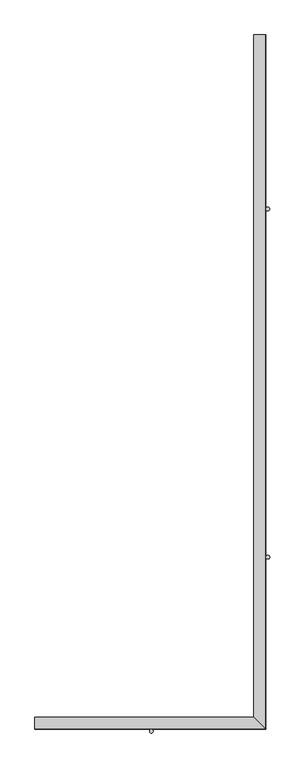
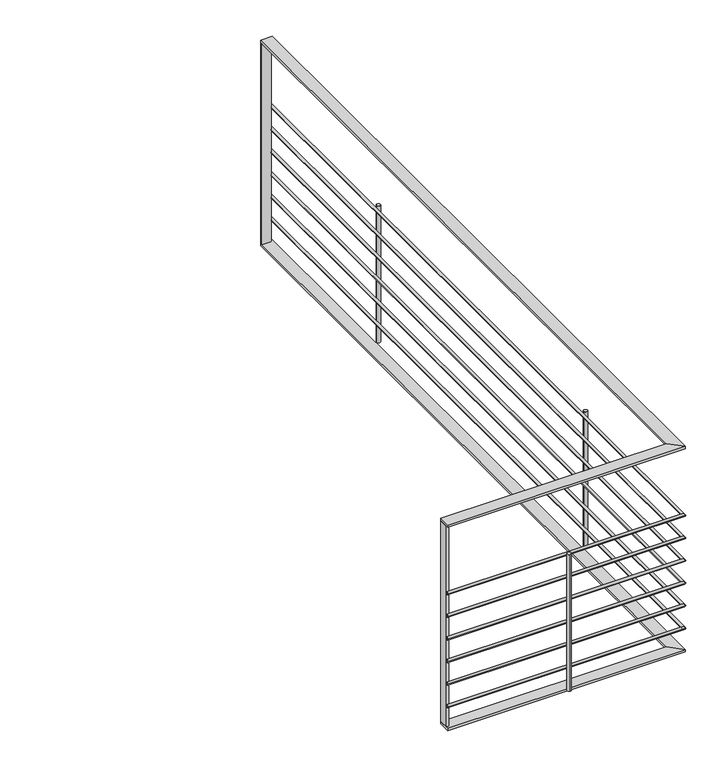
"""IFC4 building model written with IfcOpenShell, lengths in millimetres: railing geometry, Pletina y tubos."""

import ifcopenshell
import ifcopenshell.guid

model = None  # the IFC model being written
_history = None  # IfcOwnerHistory: only IFC2X3 demands one
_inside = {}  # id of a spatial element -> (the spatial element, [elements in it])
_under = {}  # id of a project, library or spatial element -> (it, [spatial elements below it])
_declared = {}  # id of a project -> (the project, [libraries it declares])
_typed = {}  # id of a type object -> (the type object, [elements of that type])
_made_of = {}  # id of a material, layer set ... -> (it, [elements and type objects made of it])


def new_model(schema):
    """Start an empty IFC model of exactly this schema.

    Asked for "IFC4X3", IfcOpenShell would pick the latest addendum, in which some entities
    have other attributes; the version numbers below select the first issue.
    IFC2X3 requires an IfcOwnerHistory on every rooted entity: one is made here for all.
    """
    global model, _history
    if schema == "IFC4X3":
        model = ifcopenshell.file(schema_version=(4, 3, 0, 0))
    else:
        model = ifcopenshell.file(schema=schema)
    _inside.clear()
    _under.clear()
    _declared.clear()
    _typed.clear()
    _made_of.clear()
    _history = None
    if model.schema == "IFC2X3":
        org = make("IfcOrganization", Name="unknown")
        user = make(
            "IfcPersonAndOrganization",
            ThePerson=make("IfcPerson", FamilyName="unknown"),
            TheOrganization=org,
        )
        app = make(
            "IfcApplication",
            ApplicationDeveloper=org,
            Version="unknown",
            ApplicationFullName="unknown",
            ApplicationIdentifier="unknown",
        )
        _history = make(
            "IfcOwnerHistory",
            OwningUser=user,
            OwningApplication=app,
            ChangeAction="ADDED",
            CreationDate=0,
        )
    return model


def make(cls, **values):
    """One entity of the class cls with the attributes given. An attribute that is None is left unset."""
    return model.create_entity(
        cls, **{name: value for name, value in values.items() if value is not None}
    )


def rooted(cls, **values):
    """An entity with a GlobalId (a new one), such as an element, a storey or a relation."""
    return make(cls, GlobalId=ifcopenshell.guid.new(), OwnerHistory=_history, **values)


def si_unit(unit_type, name, prefix=None):
    """IfcSIUnit, for example si_unit("LENGTHUNIT", "METRE", prefix="MILLI")."""
    return make("IfcSIUnit", UnitType=unit_type, Prefix=prefix, Name=name)


def assignment(units):
    """IfcUnitAssignment: the units of a project."""
    return None if units is None else make("IfcUnitAssignment", Units=units)


def point(xyz):
    """IfcCartesianPoint."""
    return None if xyz is None else make("IfcCartesianPoint", Coordinates=xyz)


def direction(xyz):
    """IfcDirection."""
    return None if xyz is None else make("IfcDirection", DirectionRatios=xyz)


def frame(location, z_axis=None, x_axis=None):
    """IfcAxis2Placement3D, a coordinate frame: its origin and axes. An axis left out is left unset."""
    return make(
        "IfcAxis2Placement3D",
        Location=point(location),
        Axis=direction(z_axis),
        RefDirection=direction(x_axis),
    )


def frame_2d(location, x_axis=None):
    """IfcAxis2Placement2D, a coordinate frame in the plane: its origin and x axis."""
    return make(
        "IfcAxis2Placement2D", Location=point(location), RefDirection=direction(x_axis)
    )


def origin():
    """The frame at (0, 0, 0) with its axes left unset."""
    return frame((0.0, 0.0, 0.0))


def place(relative_to, where):
    """IfcLocalPlacement: puts the frame where relative to a parent placement (None: the world)."""
    return make(
        "IfcLocalPlacement", PlacementRelTo=relative_to, RelativePlacement=where
    )


def context(
    kind, dimensions, precision=None, world=None, true_north=None, identifier=None
):
    """IfcGeometricRepresentationContext, for example the 3D "Model" context."""
    return make(
        "IfcGeometricRepresentationContext",
        ContextIdentifier=identifier,
        ContextType=kind,
        CoordinateSpaceDimension=dimensions,
        Precision=precision,
        WorldCoordinateSystem=world,
        TrueNorth=true_north,
    )


def project(units=None, contexts=None):
    """IfcProject with its units and contexts."""
    return rooted(
        "IfcProject",
        Name="project",
        RepresentationContexts=contexts,
        UnitsInContext=assignment(units),
    )


def spatial(cls, under=None, at=None, **own):
    """A site, building, storey or space (cls), placed at a placement, below another one or the project."""
    s = rooted(cls, ObjectPlacement=at, **own)
    if under is not None:
        _under.setdefault(under.id(), (under, []))[1].append(s)
    return s


def polyline(points):
    """IfcPolyline through the points."""
    return make("IfcPolyline", Points=[point(p) for p in points])


def circle_curve(where, radius):
    """IfcCircle in the frame where."""
    return make("IfcCircle", Position=where, Radius=radius)


def ellipse_curve(where, semi_axis1, semi_axis2):
    """IfcEllipse in the frame where."""
    return make(
        "IfcEllipse", Position=where, SemiAxis1=semi_axis1, SemiAxis2=semi_axis2
    )


def trimmed(basis, trim1, trim2, sense, master):
    """IfcTrimmedCurve: the piece of a basis curve between two trims."""
    return make(
        "IfcTrimmedCurve",
        BasisCurve=basis,
        Trim1=trim1,
        Trim2=trim2,
        SenseAgreement=sense,
        MasterRepresentation=master,
    )


def segment(curve, same_sense, transition):
    """IfcCompositeCurveSegment."""
    return make(
        "IfcCompositeCurveSegment",
        Transition=transition,
        SameSense=same_sense,
        ParentCurve=curve,
    )


def composite_curve(segments, self_intersect=None):
    """IfcCompositeCurve: segments joined end to end."""
    return make("IfcCompositeCurve", Segments=segments, SelfIntersect=self_intersect)


def outline(outer, holes=None, kind="AREA"):
    """IfcArbitraryClosedProfileDef: a profile drawn as a closed curve; with holes, ...WithVoids."""
    if holes is None:
        return make("IfcArbitraryClosedProfileDef", ProfileType=kind, OuterCurve=outer)
    return make(
        "IfcArbitraryProfileDefWithVoids",
        ProfileType=kind,
        OuterCurve=outer,
        InnerCurves=holes,
    )


def extrude(swept, where, along, depth):
    """IfcExtrudedAreaSolid: the profile swept, set in the frame where, extruded along a direction by depth."""
    return make(
        "IfcExtrudedAreaSolid",
        SweptArea=swept,
        Position=where,
        ExtrudedDirection=direction(along),
        Depth=depth,
    )


def faces_of(points, faces, orient=None, outer=None):
    """IfcFace entities. A face is a list of loops; a loop is a list of indices into points, from 0.

    orient and outer hold one flag for each loop. By default every Orientation is true, the
    first loop of a face is its IfcFaceOuterBound and the others are IfcFaceBound.
    """
    made = []
    for i, loops in enumerate(faces):
        bounds = []
        for j, loop in enumerate(loops):
            is_outer = j == 0 if outer is None else outer[i][j]
            bounds.append(
                make(
                    "IfcFaceOuterBound" if is_outer else "IfcFaceBound",
                    Bound=make("IfcPolyLoop", Polygon=[points[k] for k in loop]),
                    Orientation=True if orient is None else orient[i][j],
                )
            )
        made.append(make("IfcFace", Bounds=bounds))
    return made


def faceted_brep(points, faces, orient=None, outer=None, voids=None):
    """IfcFacetedBrep: a solid bounded by flat faces; with voids (closed shells), ...WithVoids."""
    shared = [point(p) for p in points]
    hull = make("IfcClosedShell", CfsFaces=faces_of(shared, faces, orient, outer))
    if voids is None:
        return make("IfcFacetedBrep", Outer=hull)
    return make(
        "IfcFacetedBrepWithVoids",
        Outer=hull,
        Voids=[
            make(cls, CfsFaces=faces_of(shared, fs, o, b)) for cls, fs, o, b in voids
        ],
    )


def shape(context_of_items, identifier, shape_type, items):
    """IfcShapeRepresentation: the items that make up one representation, for example the "Body"."""
    return make(
        "IfcShapeRepresentation",
        ContextOfItems=context_of_items,
        RepresentationIdentifier=identifier,
        RepresentationType=shape_type,
        Items=items,
    )


def source(mapping_origin, context_of_items, identifier, shape_type, items):
    """IfcRepresentationMap: a shape defined once, which mapped items show again and again."""
    return make(
        "IfcRepresentationMap",
        MappingOrigin=mapping_origin,
        MappedRepresentation=shape(context_of_items, identifier, shape_type, items),
    )


def transform(
    local_origin,
    x_axis=None,
    y_axis=None,
    z_axis=None,
    scale=None,
    scale2=None,
    scale3=None,
    uniform=True,
):
    """IfcCartesianTransformationOperator3D, or its non-uniform kind. x_axis, y_axis, z_axis: its Axis1, 2, 3."""
    if uniform:
        return make(
            "IfcCartesianTransformationOperator3D",
            Axis1=direction(x_axis),
            Axis2=direction(y_axis),
            LocalOrigin=point(local_origin),
            Scale=scale,
            Axis3=direction(z_axis),
        )
    return make(
        "IfcCartesianTransformationOperator3DnonUniform",
        Axis1=direction(x_axis),
        Axis2=direction(y_axis),
        LocalOrigin=point(local_origin),
        Scale=scale,
        Axis3=direction(z_axis),
        Scale2=scale2,
        Scale3=scale3,
    )


def mapped(mapping_source, mapping_target):
    """IfcMappedItem: shows the shape of a source again, moved by a transform."""
    return make(
        "IfcMappedItem", MappingSource=mapping_source, MappingTarget=mapping_target
    )


def made_of(thing, what):
    """Note that an element or type object is made of a material, layer set ...; save() writes the relation."""
    if what is not None:
        _made_of.setdefault(what.id(), (what, []))[1].append(thing)
    return thing


def element(
    cls,
    number,
    at=None,
    inside=None,
    cuts=None,
    type_object=None,
    material=None,
    context=None,
    identifier="Body",
    shape_type=None,
    held_by="IfcProductDefinitionShape",
    body=None,
    shapes=None,
    **own,
):
    """One element of the class cls, such as IfcWall. Its Tag is "e" and its number.

    at: its placement. inside: the storey or other place that contains it. cuts: it is an
    opening in that element (IfcRelVoidsElement). A single representation is given by context,
    identifier, shape_type and body (its items); several are given by shapes. held_by: the class
    of the entity that holds the representations. save() writes the other relations.
    """
    e = rooted(cls, Tag="e%d" % number, ObjectPlacement=at, **own)
    if body is not None:
        shapes = [shape(context, identifier, shape_type, body)]
    if shapes is not None:
        e.Representation = make(held_by, Representations=shapes)
    if inside is not None:
        _inside.setdefault(inside.id(), (inside, []))[1].append(e)
    if cuts is not None:
        rooted(
            "IfcRelVoidsElement", RelatingBuildingElement=cuts, RelatedOpeningElement=e
        )
    if type_object is not None:
        _typed.setdefault(type_object.id(), (type_object, []))[1].append(e)
    return made_of(e, material)


def aggregate(whole, parts):
    """IfcRelAggregates: a whole, such as a stair, and the parts it consists of."""
    return rooted("IfcRelAggregates", RelatingObject=whole, RelatedObjects=parts)


def save(model, path):
    """Write the relations noted so far, then the file.

    IfcRelAggregates (storeys below a building ...), IfcRelContainedInSpatialStructure (elements
    in a storey), IfcRelDefinesByType, IfcRelAssociatesMaterial and IfcRelDeclares: one each for
    every whole, place, type object, material and project.
    """
    for whole, parts in _under.values():
        aggregate(whole, parts)
    for where, things in _inside.values():
        rooted(
            "IfcRelContainedInSpatialStructure",
            RelatedElements=things,
            RelatingStructure=where,
        )
    for kind, things in _typed.values():
        rooted("IfcRelDefinesByType", RelatedObjects=things, RelatingType=kind)
    for what, things in _made_of.values():
        rooted("IfcRelAssociatesMaterial", RelatedObjects=things, RelatingMaterial=what)
    for by, libraries in _declared.values():
        rooted("IfcRelDeclares", RelatingContext=by, RelatedDefinitions=libraries)
    model.write(path)


def plane_surface(at):
    """IfcPlane: the flat surface through the origin of the frame at, square to its z axis."""
    return make("IfcPlane", Position=at)


def cylinder_surface(at, radius):
    """IfcCylindricalSurface: all points at the distance radius from the z axis of the frame at."""
    return make("IfcCylindricalSurface", Position=at, Radius=radius)


def advanced_brep(points, edges, surfaces, faces):
    """IfcAdvancedBrep: a solid bounded by faces that lie on surfaces and meet in shared edges.

    An edge is (start, end): straight between two places in points (the first is 0);
    or (start, end, curve); or (start, end, curve, False) where it runs against its curve.
    A face is (place in surfaces, loops), or (place, loops, False) where it looks against
    its surface's normal. A loop lists edges by number (the first is 1), with a minus sign
    where the edge is run from its end to its start. The first loop is the outer one.
    """
    corners = [point(p) for p in points]
    vertices = [make("IfcVertexPoint", VertexGeometry=c) for c in corners]
    made = []
    for start, end, *more in edges:
        made.append(
            make(
                "IfcEdgeCurve",
                EdgeStart=vertices[start],
                EdgeEnd=vertices[end],
                EdgeGeometry=more[0] if more else make("IfcPolyline", Points=[corners[start], corners[end]]),
                SameSense=more[1] if len(more) > 1 else True,
            )
        )
    hull = []
    for where, loops, *sense in faces:
        bounds = []
        for j, loop in enumerate(loops):
            ring = [make("IfcOrientedEdge", EdgeElement=made[abs(k) - 1], Orientation=k > 0) for k in loop]
            bounds.append(
                make(
                    "IfcFaceOuterBound" if j == 0 else "IfcFaceBound",
                    Bound=make("IfcEdgeLoop", EdgeList=ring),
                    Orientation=True,
                )
            )
        hull.append(make("IfcAdvancedFace", Bounds=bounds, FaceSurface=surfaces[where], SameSense=sense[0] if sense else True))
    return make("IfcAdvancedBrep", Outer=make("IfcClosedShell", CfsFaces=hull))


def railing_73caeaf0(model_context):
    return source(origin(), model_context, "Body", "SolidModel", [
        faceted_brep([(1935.5350958, -4457.6669037, 6260.0), (1935.5350958, -4457.6669037, 6250.0), (1935.5350958, -4507.6669037, 6250.0), (1935.5350958, -4507.6669037, 6260.0), (2930.5350958, -4507.6669037, 6260.0), (2880.5350958, -4457.6669037, 6260.0), (2930.5350958, -4507.6669037, 6250.0), (2880.5350958, -4457.6669037, 6250.0), (2880.5350958, -1512.6669037, 6260.0), (2930.5350958, -1512.6669037, 6260.0), (2930.5350958, -1512.6669037, 6250.0), (2880.5350958, -1512.6669037, 6250.0)], [[[0, 1, 2, 3]], [[0, 3, 4, 5]], [[3, 2, 6, 4]], [[2, 1, 7, 6]], [[1, 0, 5, 7]], [[8, 9, 10, 11]], [[5, 4, 9, 8]], [[4, 6, 10, 9]], [[6, 7, 11, 10]], [[7, 5, 8, 11]]]),
        advanced_brep(
        [(1935.5350958, -4508.6669037, 6355.0), (1935.5350958, -4496.6669037, 6355.0), (2919.5350958, -4496.6669037, 6355.0), (2931.5350958, -4508.6669037, 6355.0), (2931.5350958, -1512.6669037, 6355.0), (2919.5350958, -1512.6669037, 6355.0)],
        [
            (0, 1, circle_curve(frame((1935.5350958, -4502.6669037, 6355.0), z_axis=(-1.0, 0.0, 0.0), x_axis=(0.0, 1.0, 0.0)), 6.0)),
            (1, 0, circle_curve(frame((1935.5350958, -4502.6669037, 6355.0), z_axis=(-1.0, 0.0, 0.0), x_axis=(0.0, 1.0, 0.0)), 6.0)),
            (1, 2),
            (2, 3, ellipse_curve(frame((2925.5350958, -4502.6669037, 6355.0), z_axis=(-0.7071067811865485, -0.7071067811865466, 0.0), x_axis=(-0.7071067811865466, 0.7071067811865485, 0.0)), 8.4852814, 6.0)),
            (3, 0),
            (3, 2, ellipse_curve(frame((2925.5350958, -4502.6669037, 6355.0), z_axis=(-0.7071067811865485, -0.7071067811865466, 0.0), x_axis=(-0.7071067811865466, 0.7071067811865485, 0.0)), 8.4852814, 6.0)),
            (4, 5, circle_curve(frame((2925.5350958, -1512.6669037, 6355.0), z_axis=(0.0, 1.0, 0.0), x_axis=(-1.0, 0.0, 0.0)), 6.0)),
            (5, 4, circle_curve(frame((2925.5350958, -1512.6669037, 6355.0), z_axis=(0.0, 1.0, 0.0), x_axis=(-1.0, 0.0, 0.0)), 6.0)),
            (2, 5),
            (4, 3),
        ],
        [
            plane_surface(frame((1935.5350958, -4502.6669037, 6355.0), z_axis=(-1.0, 0.0, 0.0), x_axis=(0.0, 1.0, 0.0))),
            cylinder_surface(frame((1935.5350958, -4502.6669037, 6355.0), z_axis=(-1.0, 0.0, 0.0), x_axis=(0.0, 1.0, 0.0)), 6.0),
            plane_surface(frame((2925.5350958, -1512.6669037, 6355.0), z_axis=(0.0, 1.0, 0.0), x_axis=(0.0, 0.0, 1.0))),
            cylinder_surface(frame((2925.5350958, -4502.6669037, 6355.0), z_axis=(0.0, -1.0, 0.0), x_axis=(-1.0, 0.0, 0.0)), 6.0),
        ],
        [
            (0, [[1, 2]]),
            (1, [[-2, 3, 4, 5]]),
            (1, [[-1, -5, 6, -3]]),
            (2, [[7, 8]]),
            (3, [[-4, 9, -7, 10]]),
            (3, [[-6, -10, -8, -9]]),
        ],
    ),
        advanced_brep(
        [(1935.5350958, -4508.6669037, 6455.0), (1935.5350958, -4496.6669037, 6455.0), (2919.5350958, -4496.6669037, 6455.0), (2931.5350958, -4508.6669037, 6455.0), (2931.5350958, -1512.6669037, 6455.0), (2919.5350958, -1512.6669037, 6455.0)],
        [
            (0, 1, circle_curve(frame((1935.5350958, -4502.6669037, 6455.0), z_axis=(-1.0, 0.0, 0.0), x_axis=(0.0, 1.0, 0.0)), 6.0)),
            (1, 0, circle_curve(frame((1935.5350958, -4502.6669037, 6455.0), z_axis=(-1.0, 0.0, 0.0), x_axis=(0.0, 1.0, 0.0)), 6.0)),
            (1, 2),
            (2, 3, ellipse_curve(frame((2925.5350958, -4502.6669037, 6455.0), z_axis=(-0.7071067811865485, -0.7071067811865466, 0.0), x_axis=(-0.7071067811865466, 0.7071067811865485, 0.0)), 8.4852814, 6.0)),
            (3, 0),
            (3, 2, ellipse_curve(frame((2925.5350958, -4502.6669037, 6455.0), z_axis=(-0.7071067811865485, -0.7071067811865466, 0.0), x_axis=(-0.7071067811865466, 0.7071067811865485, 0.0)), 8.4852814, 6.0)),
            (4, 5, circle_curve(frame((2925.5350958, -1512.6669037, 6455.0), z_axis=(0.0, 1.0, 0.0), x_axis=(-1.0, 0.0, 0.0)), 6.0)),
            (5, 4, circle_curve(frame((2925.5350958, -1512.6669037, 6455.0), z_axis=(0.0, 1.0, 0.0), x_axis=(-1.0, 0.0, 0.0)), 6.0)),
            (2, 5),
            (4, 3),
        ],
        [
            plane_surface(frame((1935.5350958, -4502.6669037, 6455.0), z_axis=(-1.0, 0.0, 0.0), x_axis=(0.0, 1.0, 0.0))),
            cylinder_surface(frame((1935.5350958, -4502.6669037, 6455.0), z_axis=(-1.0, 0.0, 0.0), x_axis=(0.0, 1.0, 0.0)), 6.0),
            plane_surface(frame((2925.5350958, -1512.6669037, 6455.0), z_axis=(0.0, 1.0, 0.0), x_axis=(0.0, 0.0, 1.0))),
            cylinder_surface(frame((2925.5350958, -4502.6669037, 6455.0), z_axis=(0.0, -1.0, 0.0), x_axis=(-1.0, 0.0, 0.0)), 6.0),
        ],
        [
            (0, [[1, 2]]),
            (1, [[-2, 3, 4, 5]]),
            (1, [[-1, -5, 6, -3]]),
            (2, [[7, 8]]),
            (3, [[-4, 9, -7, 10]]),
            (3, [[-6, -10, -8, -9]]),
        ],
    ),
        advanced_brep(
        [(1935.5350958, -4508.6669037, 6555.0), (1935.5350958, -4496.6669037, 6555.0), (2919.5350958, -4496.6669037, 6555.0), (2931.5350958, -4508.6669037, 6555.0), (2931.5350958, -1512.6669037, 6555.0), (2919.5350958, -1512.6669037, 6555.0)],
        [
            (0, 1, circle_curve(frame((1935.5350958, -4502.6669037, 6555.0), z_axis=(-1.0, 0.0, 0.0), x_axis=(0.0, 1.0, 0.0)), 6.0)),
            (1, 0, circle_curve(frame((1935.5350958, -4502.6669037, 6555.0), z_axis=(-1.0, 0.0, 0.0), x_axis=(0.0, 1.0, 0.0)), 6.0)),
            (1, 2),
            (2, 3, ellipse_curve(frame((2925.5350958, -4502.6669037, 6555.0), z_axis=(-0.7071067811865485, -0.7071067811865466, 0.0), x_axis=(-0.7071067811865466, 0.7071067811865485, 0.0)), 8.4852814, 6.0)),
            (3, 0),
            (3, 2, ellipse_curve(frame((2925.5350958, -4502.6669037, 6555.0), z_axis=(-0.7071067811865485, -0.7071067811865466, 0.0), x_axis=(-0.7071067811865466, 0.7071067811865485, 0.0)), 8.4852814, 6.0)),
            (4, 5, circle_curve(frame((2925.5350958, -1512.6669037, 6555.0), z_axis=(0.0, 1.0, 0.0), x_axis=(-1.0, 0.0, 0.0)), 6.0)),
            (5, 4, circle_curve(frame((2925.5350958, -1512.6669037, 6555.0), z_axis=(0.0, 1.0, 0.0), x_axis=(-1.0, 0.0, 0.0)), 6.0)),
            (2, 5),
            (4, 3),
        ],
        [
            plane_surface(frame((1935.5350958, -4502.6669037, 6555.0), z_axis=(-1.0, 0.0, 0.0), x_axis=(0.0, 1.0, 0.0))),
            cylinder_surface(frame((1935.5350958, -4502.6669037, 6555.0), z_axis=(-1.0, 0.0, 0.0), x_axis=(0.0, 1.0, 0.0)), 6.0),
            plane_surface(frame((2925.5350958, -1512.6669037, 6555.0), z_axis=(0.0, 1.0, 0.0), x_axis=(0.0, 0.0, 1.0))),
            cylinder_surface(frame((2925.5350958, -4502.6669037, 6555.0), z_axis=(0.0, -1.0, 0.0), x_axis=(-1.0, 0.0, 0.0)), 6.0),
        ],
        [
            (0, [[1, 2]]),
            (1, [[-2, 3, 4, 5]]),
            (1, [[-1, -5, 6, -3]]),
            (2, [[7, 8]]),
            (3, [[-4, 9, -7, 10]]),
            (3, [[-6, -10, -8, -9]]),
        ],
    ),
        advanced_brep(
        [(1935.5350958, -4508.6669037, 6655.0), (1935.5350958, -4496.6669037, 6655.0), (2919.5350958, -4496.6669037, 6655.0), (2931.5350958, -4508.6669037, 6655.0), (2931.5350958, -1512.6669037, 6655.0), (2919.5350958, -1512.6669037, 6655.0)],
        [
            (0, 1, circle_curve(frame((1935.5350958, -4502.6669037, 6655.0), z_axis=(-1.0, 0.0, 0.0), x_axis=(0.0, 1.0, 0.0)), 6.0)),
            (1, 0, circle_curve(frame((1935.5350958, -4502.6669037, 6655.0), z_axis=(-1.0, 0.0, 0.0), x_axis=(0.0, 1.0, 0.0)), 6.0)),
            (1, 2),
            (2, 3, ellipse_curve(frame((2925.5350958, -4502.6669037, 6655.0), z_axis=(-0.7071067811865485, -0.7071067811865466, 0.0), x_axis=(-0.7071067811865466, 0.7071067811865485, 0.0)), 8.4852814, 6.0)),
            (3, 0),
            (3, 2, ellipse_curve(frame((2925.5350958, -4502.6669037, 6655.0), z_axis=(-0.7071067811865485, -0.7071067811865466, 0.0), x_axis=(-0.7071067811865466, 0.7071067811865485, 0.0)), 8.4852814, 6.0)),
            (4, 5, circle_curve(frame((2925.5350958, -1512.6669037, 6655.0), z_axis=(0.0, 1.0, 0.0), x_axis=(-1.0, 0.0, 0.0)), 6.0)),
            (5, 4, circle_curve(frame((2925.5350958, -1512.6669037, 6655.0), z_axis=(0.0, 1.0, 0.0), x_axis=(-1.0, 0.0, 0.0)), 6.0)),
            (2, 5),
            (4, 3),
        ],
        [
            plane_surface(frame((1935.5350958, -4502.6669037, 6655.0), z_axis=(-1.0, 0.0, 0.0), x_axis=(0.0, 1.0, 0.0))),
            cylinder_surface(frame((1935.5350958, -4502.6669037, 6655.0), z_axis=(-1.0, 0.0, 0.0), x_axis=(0.0, 1.0, 0.0)), 6.0),
            plane_surface(frame((2925.5350958, -1512.6669037, 6655.0), z_axis=(0.0, 1.0, 0.0), x_axis=(0.0, 0.0, 1.0))),
            cylinder_surface(frame((2925.5350958, -4502.6669037, 6655.0), z_axis=(0.0, -1.0, 0.0), x_axis=(-1.0, 0.0, 0.0)), 6.0),
        ],
        [
            (0, [[1, 2]]),
            (1, [[-2, 3, 4, 5]]),
            (1, [[-1, -5, 6, -3]]),
            (2, [[7, 8]]),
            (3, [[-4, 9, -7, 10]]),
            (3, [[-6, -10, -8, -9]]),
        ],
    ),
        advanced_brep(
        [(1935.5350958, -4508.6669037, 6755.0), (1935.5350958, -4496.6669037, 6755.0), (2919.5350958, -4496.6669037, 6755.0), (2931.5350958, -4508.6669037, 6755.0), (2931.5350958, -1512.6669037, 6755.0), (2919.5350958, -1512.6669037, 6755.0)],
        [
            (0, 1, circle_curve(frame((1935.5350958, -4502.6669037, 6755.0), z_axis=(-1.0, 0.0, 0.0), x_axis=(0.0, 1.0, 0.0)), 6.0)),
            (1, 0, circle_curve(frame((1935.5350958, -4502.6669037, 6755.0), z_axis=(-1.0, 0.0, 0.0), x_axis=(0.0, 1.0, 0.0)), 6.0)),
            (1, 2),
            (2, 3, ellipse_curve(frame((2925.5350958, -4502.6669037, 6755.0), z_axis=(-0.7071067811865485, -0.7071067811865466, 0.0), x_axis=(-0.7071067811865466, 0.7071067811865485, 0.0)), 8.4852814, 6.0)),
            (3, 0),
            (3, 2, ellipse_curve(frame((2925.5350958, -4502.6669037, 6755.0), z_axis=(-0.7071067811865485, -0.7071067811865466, 0.0), x_axis=(-0.7071067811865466, 0.7071067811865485, 0.0)), 8.4852814, 6.0)),
            (4, 5, circle_curve(frame((2925.5350958, -1512.6669037, 6755.0), z_axis=(0.0, 1.0, 0.0), x_axis=(-1.0, 0.0, 0.0)), 6.0)),
            (5, 4, circle_curve(frame((2925.5350958, -1512.6669037, 6755.0), z_axis=(0.0, 1.0, 0.0), x_axis=(-1.0, 0.0, 0.0)), 6.0)),
            (2, 5),
            (4, 3),
        ],
        [
            plane_surface(frame((1935.5350958, -4502.6669037, 6755.0), z_axis=(-1.0, 0.0, 0.0), x_axis=(0.0, 1.0, 0.0))),
            cylinder_surface(frame((1935.5350958, -4502.6669037, 6755.0), z_axis=(-1.0, 0.0, 0.0), x_axis=(0.0, 1.0, 0.0)), 6.0),
            plane_surface(frame((2925.5350958, -1512.6669037, 6755.0), z_axis=(0.0, 1.0, 0.0), x_axis=(0.0, 0.0, 1.0))),
            cylinder_surface(frame((2925.5350958, -4502.6669037, 6755.0), z_axis=(0.0, -1.0, 0.0), x_axis=(-1.0, 0.0, 0.0)), 6.0),
        ],
        [
            (0, [[1, 2]]),
            (1, [[-2, 3, 4, 5]]),
            (1, [[-1, -5, 6, -3]]),
            (2, [[7, 8]]),
            (3, [[-4, 9, -7, 10]]),
            (3, [[-6, -10, -8, -9]]),
        ],
    ),
        advanced_brep(
        [(1935.5350958, -4508.6669037, 6855.0), (1935.5350958, -4496.6669037, 6855.0), (2919.5350958, -4496.6669037, 6855.0), (2931.5350958, -4508.6669037, 6855.0), (2931.5350958, -1512.6669037, 6855.0), (2919.5350958, -1512.6669037, 6855.0)],
        [
            (0, 1, circle_curve(frame((1935.5350958, -4502.6669037, 6855.0), z_axis=(-1.0, 0.0, 0.0), x_axis=(0.0, 1.0, 0.0)), 6.0)),
            (1, 0, circle_curve(frame((1935.5350958, -4502.6669037, 6855.0), z_axis=(-1.0, 0.0, 0.0), x_axis=(0.0, 1.0, 0.0)), 6.0)),
            (1, 2),
            (2, 3, ellipse_curve(frame((2925.5350958, -4502.6669037, 6855.0), z_axis=(-0.7071067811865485, -0.7071067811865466, 0.0), x_axis=(-0.7071067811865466, 0.7071067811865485, 0.0)), 8.4852814, 6.0)),
            (3, 0),
            (3, 2, ellipse_curve(frame((2925.5350958, -4502.6669037, 6855.0), z_axis=(-0.7071067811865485, -0.7071067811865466, 0.0), x_axis=(-0.7071067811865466, 0.7071067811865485, 0.0)), 8.4852814, 6.0)),
            (4, 5, circle_curve(frame((2925.5350958, -1512.6669037, 6855.0), z_axis=(0.0, 1.0, 0.0), x_axis=(-1.0, 0.0, 0.0)), 6.0)),
            (5, 4, circle_curve(frame((2925.5350958, -1512.6669037, 6855.0), z_axis=(0.0, 1.0, 0.0), x_axis=(-1.0, 0.0, 0.0)), 6.0)),
            (2, 5),
            (4, 3),
        ],
        [
            plane_surface(frame((1935.5350958, -4502.6669037, 6855.0), z_axis=(-1.0, 0.0, 0.0), x_axis=(0.0, 1.0, 0.0))),
            cylinder_surface(frame((1935.5350958, -4502.6669037, 6855.0), z_axis=(-1.0, 0.0, 0.0), x_axis=(0.0, 1.0, 0.0)), 6.0),
            plane_surface(frame((2925.5350958, -1512.6669037, 6855.0), z_axis=(0.0, 1.0, 0.0), x_axis=(0.0, 0.0, 1.0))),
            cylinder_surface(frame((2925.5350958, -4502.6669037, 6855.0), z_axis=(0.0, -1.0, 0.0), x_axis=(-1.0, 0.0, 0.0)), 6.0),
        ],
        [
            (0, [[1, 2]]),
            (1, [[-2, 3, 4, 5]]),
            (1, [[-1, -5, 6, -3]]),
            (2, [[7, 8]]),
            (3, [[-4, 9, -7, 10]]),
            (3, [[-6, -10, -8, -9]]),
        ],
    ),
        faceted_brep([(1935.5350958, -4457.6669037, 7160.0), (1935.5350958, -4457.6669037, 7150.0), (1935.5350958, -4507.6669037, 7150.0), (1935.5350958, -4507.6669037, 7160.0), (2930.5350958, -4507.6669037, 7160.0), (2880.5350958, -4457.6669037, 7160.0), (2930.5350958, -4507.6669037, 7150.0), (2880.5350958, -4457.6669037, 7150.0), (2880.5350958, -1512.6669037, 7160.0), (2930.5350958, -1512.6669037, 7160.0), (2930.5350958, -1512.6669037, 7150.0), (2880.5350958, -1512.6669037, 7150.0)], [[[0, 1, 2, 3]], [[0, 3, 4, 5]], [[3, 2, 6, 4]], [[2, 1, 7, 6]], [[1, 0, 5, 7]], [[8, 9, 10, 11]], [[5, 4, 9, 8]], [[4, 6, 10, 9]], [[6, 7, 11, 10]], [[7, 5, 8, 11]]]),
        extrude(outline(composite_curve([segment(trimmed(circle_curve(frame_2d((2940.5350958, -2263.9169037)), 8.0), [point((2948.5350958, -2263.9169037))], [point((2932.5350958, -2263.9169037))], False, "CARTESIAN"), True, "CONTINUOUS"), segment(trimmed(circle_curve(frame_2d((2940.5350958, -2263.9169037)), 8.0), [point((2932.5350958, -2263.9169037))], [point((2948.5350958, -2263.9169037))], False, "CARTESIAN"), True, "CONTINUOUS")], self_intersect=False)), frame((0.0, 0.0, 6260.0), z_axis=(0.0, 0.0, 1.0), x_axis=(1.0, 0.0, 0.0)), (0.0, 0.0, 1.0), 605.0),
        extrude(outline(composite_curve([segment(trimmed(circle_curve(frame_2d((2940.5350958, -3766.4169037)), 8.0), [point((2948.5350958, -3766.4169037))], [point((2932.5350958, -3766.4169037))], False, "CARTESIAN"), True, "CONTINUOUS"), segment(trimmed(circle_curve(frame_2d((2940.5350958, -3766.4169037)), 8.0), [point((2932.5350958, -3766.4169037))], [point((2948.5350958, -3766.4169037))], False, "CARTESIAN"), True, "CONTINUOUS")], self_intersect=False)), frame((0.0, 0.0, 6260.0), z_axis=(0.0, 0.0, 1.0), x_axis=(1.0, 0.0, 0.0)), (0.0, 0.0, 1.0), 605.0),
        extrude(outline(composite_curve([segment(trimmed(circle_curve(frame_2d((2438.0350958, -4517.6669037)), 8.0), [point((2438.0350958, -4525.6669037))], [point((2438.0350958, -4509.6669037))], False, "CARTESIAN"), True, "CONTINUOUS"), segment(trimmed(circle_curve(frame_2d((2438.0350958, -4517.6669037)), 8.0), [point((2438.0350958, -4509.6669037))], [point((2438.0350958, -4525.6669037))], False, "CARTESIAN"), True, "CONTINUOUS")], self_intersect=False)), frame((0.0, 0.0, 6260.0), z_axis=(0.0, 0.0, 1.0), x_axis=(1.0, 0.0, 0.0)), (0.0, 0.0, 1.0), 605.0),
        extrude(outline(polyline([(2920.5350958, -1522.6669037), (2880.5350958, -1522.6669037), (2880.5350958, -1512.6669037), (2920.5350958, -1512.6669037), (2920.5350958, -1522.6669037)])), frame((0.0, 0.0, 6260.0), z_axis=(0.0, 0.0, 1.0), x_axis=(1.0, 0.0, 0.0)), (0.0, 0.0, 1.0), 890.0),
        extrude(outline(polyline([(1935.5350958, -4497.6669037), (1935.5350958, -4457.6669037), (1945.5350958, -4457.6669037), (1945.5350958, -4497.6669037), (1935.5350958, -4497.6669037)])), frame((0.0, 0.0, 6260.0), z_axis=(0.0, 0.0, 1.0), x_axis=(1.0, 0.0, 0.0)), (0.0, 0.0, 1.0), 890.0),
    ])


if __name__ == "__main__":
    model = new_model("IFC4")
    model_context = context("Model", 3, world=origin())
    ifc_project = project(units=[si_unit("LENGTHUNIT", "METRE", prefix="MILLI")], contexts=[model_context])
    site = spatial("IfcSite", under=ifc_project)
    building = spatial("IfcBuilding", under=site)
    placement = place(None, origin())
    railing_shape = railing_73caeaf0(model_context)
    element("IfcRailing", 1, ObjectType="Pletina y tubos", at=placement, inside=building, context=model_context, shape_type="MappedRepresentation", body=[
        mapped(railing_shape, transform((0.0, 0.0, 0.0), x_axis=(1.0, 0.0, 0.0), y_axis=(0.0, 1.0, 0.0), z_axis=(0.0, 0.0, 1.0))),
    ])
    save(model, "model.ifc")
